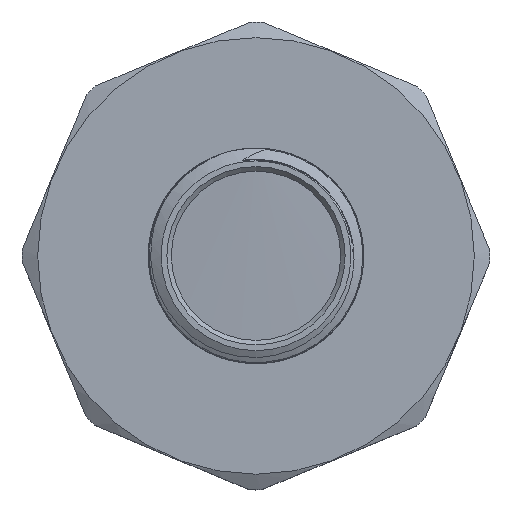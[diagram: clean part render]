
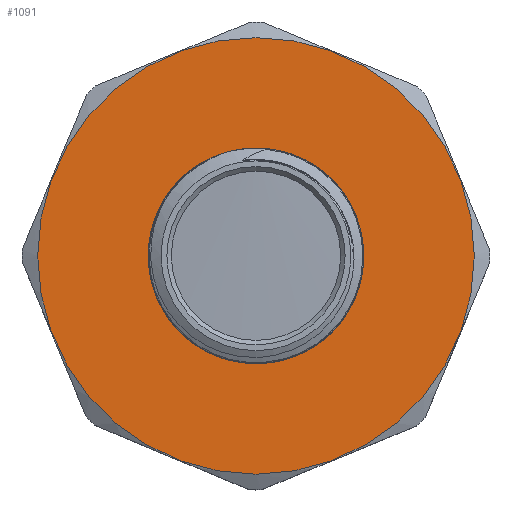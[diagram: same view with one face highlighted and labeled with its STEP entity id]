
A CAD part, top view. The second image highlights one B-rep face of the part: STEP entity #1091.
In plain terms, the highlighted planar face has unit normal (0, 0, 1).
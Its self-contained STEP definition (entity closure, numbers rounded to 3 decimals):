
#17=FACE_BOUND('',#238,.T.);
#32=PLANE('',#1202);
#70=CIRCLE('',#1119,12.085);
#71=CIRCLE('',#1120,12.085);
#75=CIRCLE('',#1137,24.492);
#175=FACE_OUTER_BOUND('',#237,.T.);
#237=EDGE_LOOP('',(#983));
#238=EDGE_LOOP('',(#984,#985));
#400=VERTEX_POINT('',#1535);
#401=VERTEX_POINT('',#1537);
#434=VERTEX_POINT('',#2568);
#513=EDGE_CURVE('',#400,#401,#70,.T.);
#514=EDGE_CURVE('',#401,#400,#71,.T.);
#561=EDGE_CURVE('',#434,#434,#75,.T.);
#983=ORIENTED_EDGE('',*,*,#561,.T.);
#984=ORIENTED_EDGE('',*,*,#514,.F.);
#985=ORIENTED_EDGE('',*,*,#513,.F.);
#1091=ADVANCED_FACE('',(#175,#17),#32,.T.);
#1119=AXIS2_PLACEMENT_3D('',#1538,#1226,#1227);
#1120=AXIS2_PLACEMENT_3D('',#1539,#1228,#1229);
#1137=AXIS2_PLACEMENT_3D('',#2569,#1275,#1276);
#1202=AXIS2_PLACEMENT_3D('',#8402,#1432,#1433);
#1226=DIRECTION('center_axis',(0.,0.,1.));
#1227=DIRECTION('ref_axis',(1.,0.,0.));
#1228=DIRECTION('center_axis',(0.,0.,1.));
#1229=DIRECTION('ref_axis',(1.,0.,0.));
#1275=DIRECTION('center_axis',(0.,0.,1.));
#1276=DIRECTION('ref_axis',(0.,1.,0.));
#1432=DIRECTION('center_axis',(0.,0.,1.));
#1433=DIRECTION('ref_axis',(1.,0.,0.));
#1535=CARTESIAN_POINT('',(0.,12.085,26.496));
#1537=CARTESIAN_POINT('',(0.,-12.085,26.496));
#1538=CARTESIAN_POINT('Origin',(0.,0.,26.496));
#1539=CARTESIAN_POINT('Origin',(0.,0.,26.496));
#2568=CARTESIAN_POINT('',(0.,-24.492,26.496));
#2569=CARTESIAN_POINT('Origin',(0.,0.,26.496));
#8402=CARTESIAN_POINT('Origin',(0.,-12.085,26.496));
